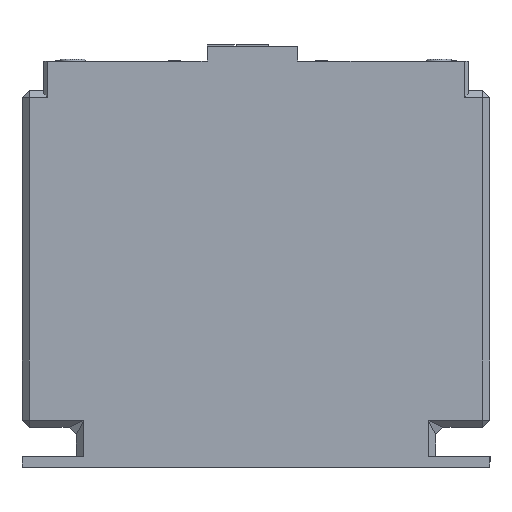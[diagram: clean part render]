
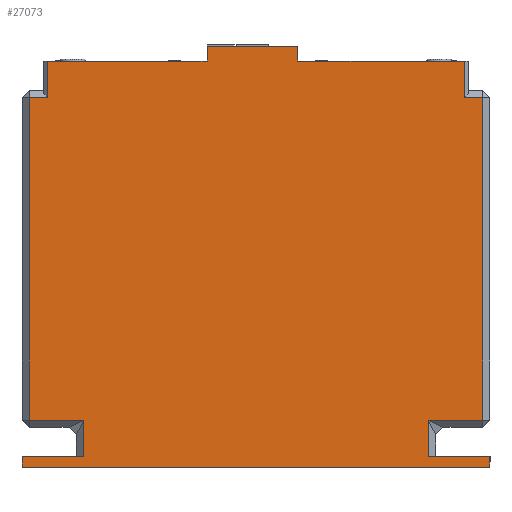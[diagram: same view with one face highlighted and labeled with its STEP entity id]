
A CAD part, left-side view. The second image highlights one B-rep face of the part: STEP entity #27073.
In plain terms, the highlighted planar face has unit normal (-1, 0, 0).
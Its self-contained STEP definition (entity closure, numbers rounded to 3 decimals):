
#649=LINE('',#34999,#3384);
#828=LINE('',#35837,#3563);
#2638=LINE('',#46320,#5373);
#2650=LINE('',#46344,#5385);
#2651=LINE('',#46347,#5386);
#2652=LINE('',#46349,#5387);
#2653=LINE('',#46350,#5388);
#2654=LINE('',#46352,#5389);
#2655=LINE('',#46354,#5390);
#2656=LINE('',#46356,#5391);
#2657=LINE('',#46358,#5392);
#2658=LINE('',#46360,#5393);
#2659=LINE('',#46362,#5394);
#2660=LINE('',#46364,#5395);
#2661=LINE('',#46366,#5396);
#2662=LINE('',#46368,#5397);
#2663=LINE('',#46370,#5398);
#2664=LINE('',#46372,#5399);
#2665=LINE('',#46374,#5400);
#2666=LINE('',#46375,#5401);
#3384=VECTOR('',#29230,10.);
#3563=VECTOR('',#29493,10.);
#5373=VECTOR('',#32581,10.);
#5385=VECTOR('',#32601,10.);
#5386=VECTOR('',#32604,10.);
#5387=VECTOR('',#32605,10.);
#5388=VECTOR('',#32606,10.);
#5389=VECTOR('',#32607,10.);
#5390=VECTOR('',#32608,10.);
#5391=VECTOR('',#32609,10.);
#5392=VECTOR('',#32610,10.);
#5393=VECTOR('',#32611,10.);
#5394=VECTOR('',#32612,10.);
#5395=VECTOR('',#32613,10.);
#5396=VECTOR('',#32614,10.);
#5397=VECTOR('',#32615,10.);
#5398=VECTOR('',#32616,10.);
#5399=VECTOR('',#32617,10.);
#5400=VECTOR('',#32618,10.);
#5401=VECTOR('',#32619,10.);
#6710=PLANE('',#28314);
#9132=FACE_OUTER_BOUND('',#10692,.T.);
#10692=EDGE_LOOP('',(#23585,#23586,#23587,#23588,#23589,#23590,#23591,#23592,
#23593,#23594,#23595,#23596,#23597,#23598,#23599,#23600,#23601,#23602,#23603,
#23604));
#11658=VERTEX_POINT('',#34996);
#11659=VERTEX_POINT('',#34998);
#11935=VERTEX_POINT('',#35834);
#11936=VERTEX_POINT('',#35836);
#13482=VERTEX_POINT('',#46319);
#13490=VERTEX_POINT('',#46342);
#13491=VERTEX_POINT('',#46346);
#13492=VERTEX_POINT('',#46348);
#13493=VERTEX_POINT('',#46351);
#13494=VERTEX_POINT('',#46353);
#13495=VERTEX_POINT('',#46355);
#13496=VERTEX_POINT('',#46357);
#13497=VERTEX_POINT('',#46359);
#13498=VERTEX_POINT('',#46361);
#13499=VERTEX_POINT('',#46363);
#13500=VERTEX_POINT('',#46365);
#13501=VERTEX_POINT('',#46367);
#13502=VERTEX_POINT('',#46369);
#13503=VERTEX_POINT('',#46371);
#13504=VERTEX_POINT('',#46373);
#14302=EDGE_CURVE('',#11659,#11658,#649,.T.);
#14597=EDGE_CURVE('',#11936,#11935,#828,.T.);
#17046=EDGE_CURVE('',#11659,#13482,#2638,.T.);
#17058=EDGE_CURVE('',#13490,#11935,#2650,.T.);
#17059=EDGE_CURVE('',#13491,#11658,#2651,.T.);
#17060=EDGE_CURVE('',#13492,#13491,#2652,.T.);
#17061=EDGE_CURVE('',#13492,#11936,#2653,.T.);
#17062=EDGE_CURVE('',#13493,#13490,#2654,.T.);
#17063=EDGE_CURVE('',#13494,#13493,#2655,.T.);
#17064=EDGE_CURVE('',#13495,#13494,#2656,.T.);
#17065=EDGE_CURVE('',#13496,#13495,#2657,.T.);
#17066=EDGE_CURVE('',#13496,#13497,#2658,.T.);
#17067=EDGE_CURVE('',#13498,#13497,#2659,.T.);
#17068=EDGE_CURVE('',#13498,#13499,#2660,.T.);
#17069=EDGE_CURVE('',#13499,#13500,#2661,.T.);
#17070=EDGE_CURVE('',#13500,#13501,#2662,.T.);
#17071=EDGE_CURVE('',#13502,#13501,#2663,.T.);
#17072=EDGE_CURVE('',#13503,#13502,#2664,.T.);
#17073=EDGE_CURVE('',#13504,#13503,#2665,.T.);
#17074=EDGE_CURVE('',#13482,#13504,#2666,.T.);
#23585=ORIENTED_EDGE('',*,*,#17046,.F.);
#23586=ORIENTED_EDGE('',*,*,#14302,.T.);
#23587=ORIENTED_EDGE('',*,*,#17059,.F.);
#23588=ORIENTED_EDGE('',*,*,#17060,.F.);
#23589=ORIENTED_EDGE('',*,*,#17061,.T.);
#23590=ORIENTED_EDGE('',*,*,#14597,.T.);
#23591=ORIENTED_EDGE('',*,*,#17058,.F.);
#23592=ORIENTED_EDGE('',*,*,#17062,.F.);
#23593=ORIENTED_EDGE('',*,*,#17063,.F.);
#23594=ORIENTED_EDGE('',*,*,#17064,.F.);
#23595=ORIENTED_EDGE('',*,*,#17065,.F.);
#23596=ORIENTED_EDGE('',*,*,#17066,.T.);
#23597=ORIENTED_EDGE('',*,*,#17067,.F.);
#23598=ORIENTED_EDGE('',*,*,#17068,.T.);
#23599=ORIENTED_EDGE('',*,*,#17069,.T.);
#23600=ORIENTED_EDGE('',*,*,#17070,.T.);
#23601=ORIENTED_EDGE('',*,*,#17071,.F.);
#23602=ORIENTED_EDGE('',*,*,#17072,.F.);
#23603=ORIENTED_EDGE('',*,*,#17073,.F.);
#23604=ORIENTED_EDGE('',*,*,#17074,.F.);
#27073=ADVANCED_FACE('',(#9132),#6710,.T.);
#28314=AXIS2_PLACEMENT_3D('',#46345,#32602,#32603);
#29230=DIRECTION('',(0.,1.,0.));
#29493=DIRECTION('',(0.,1.,0.));
#32581=DIRECTION('',(0.,0.,-1.));
#32601=DIRECTION('',(0.,0.,1.));
#32602=DIRECTION('center_axis',(-1.,0.,0.));
#32603=DIRECTION('ref_axis',(0.,-1.,0.));
#32604=DIRECTION('',(0.,0.,-1.));
#32605=DIRECTION('',(0.,-1.,0.));
#32606=DIRECTION('',(0.,0.,-1.));
#32607=DIRECTION('',(0.,-1.,0.));
#32608=DIRECTION('',(0.,0.,1.));
#32609=DIRECTION('',(0.,1.,0.));
#32610=DIRECTION('',(0.,0.,1.));
#32611=DIRECTION('',(0.,1.,0.));
#32612=DIRECTION('',(0.,0.,1.));
#32613=DIRECTION('',(0.,-1.,0.));
#32614=DIRECTION('',(0.,0.,1.));
#32615=DIRECTION('',(0.,1.,0.));
#32616=DIRECTION('',(0.,0.,-1.));
#32617=DIRECTION('',(0.,1.,0.));
#32618=DIRECTION('',(0.,0.,-1.));
#32619=DIRECTION('',(0.,-1.,0.));
#34996=CARTESIAN_POINT('',(0.,53.,112.));
#34998=CARTESIAN_POINT('',(0.,7.,112.));
#34999=CARTESIAN_POINT('',(0.,96.75,112.));
#35834=CARTESIAN_POINT('',(0.,122.,112.));
#35836=CARTESIAN_POINT('',(0.,78.,112.));
#35837=CARTESIAN_POINT('',(0.,96.75,112.));
#46319=CARTESIAN_POINT('',(0.,7.,102.));
#46320=CARTESIAN_POINT('',(0.,7.,58.));
#46342=CARTESIAN_POINT('',(0.,122.,102.));
#46344=CARTESIAN_POINT('',(0.,122.,58.));
#46345=CARTESIAN_POINT('Origin',(0.,129.,0.));
#46346=CARTESIAN_POINT('',(0.,53.,116.));
#46347=CARTESIAN_POINT('',(0.,53.,116.));
#46348=CARTESIAN_POINT('',(0.,78.,116.));
#46349=CARTESIAN_POINT('',(0.,78.,116.));
#46350=CARTESIAN_POINT('',(0.,78.,116.));
#46351=CARTESIAN_POINT('',(0.,127.,102.));
#46352=CARTESIAN_POINT('',(0.,127.304,102.));
#46353=CARTESIAN_POINT('',(0.,127.,13.));
#46354=CARTESIAN_POINT('',(0.,127.,0.));
#46355=CARTESIAN_POINT('',(0.,112.,13.));
#46356=CARTESIAN_POINT('',(0.,129.,13.));
#46357=CARTESIAN_POINT('',(0.,112.,3.));
#46358=CARTESIAN_POINT('',(0.,112.,3.5));
#46359=CARTESIAN_POINT('',(0.,129.,3.));
#46360=CARTESIAN_POINT('',(0.,129.,3.));
#46361=CARTESIAN_POINT('',(0.,129.,0.));
#46362=CARTESIAN_POINT('',(0.,129.,0.));
#46363=CARTESIAN_POINT('',(0.,0.,0.));
#46364=CARTESIAN_POINT('',(0.,129.,0.));
#46365=CARTESIAN_POINT('',(0.,0.,3.));
#46366=CARTESIAN_POINT('',(0.,0.,0.));
#46367=CARTESIAN_POINT('',(0.,17.,3.));
#46368=CARTESIAN_POINT('',(0.,64.5,3.));
#46369=CARTESIAN_POINT('',(0.,17.,13.));
#46370=CARTESIAN_POINT('',(0.,17.,3.5));
#46371=CARTESIAN_POINT('',(0.,2.,13.));
#46372=CARTESIAN_POINT('',(0.,64.5,13.));
#46373=CARTESIAN_POINT('',(0.,2.,102.));
#46374=CARTESIAN_POINT('',(0.,2.,0.));
#46375=CARTESIAN_POINT('',(0.,66.196,102.));
